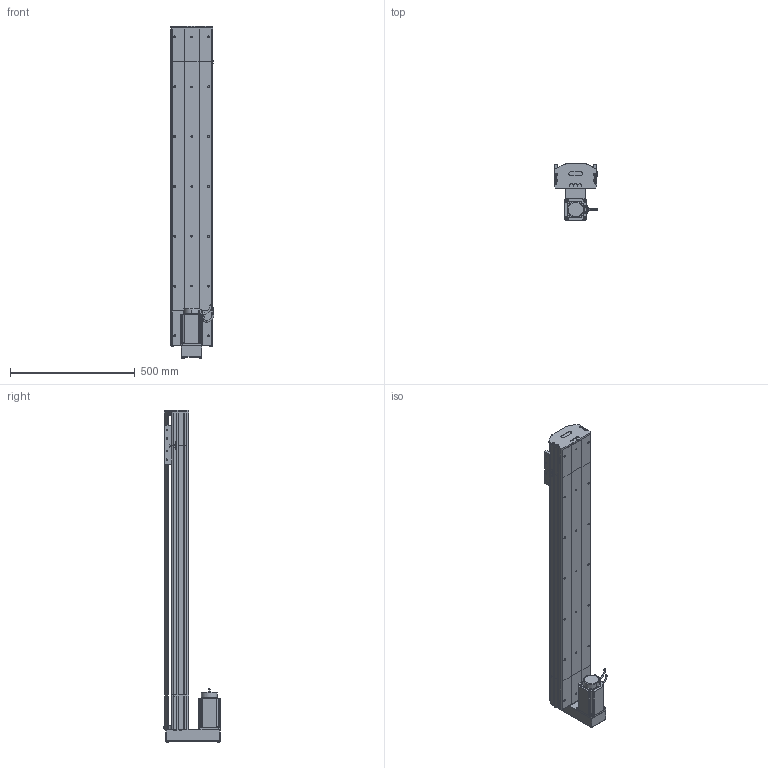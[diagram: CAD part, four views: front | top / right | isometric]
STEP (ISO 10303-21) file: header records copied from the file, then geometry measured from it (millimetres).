
FILE_DESCRIPTION (( 'STEP AP214' ), '1' );
FILE_NAME ('D17 TSH BM S1000.STEP', '2010-06-30T06:52:21', ( 'Christophe Gaillard' ), ( 'SGA' ), 'SwSTEP 2.0', 'SolidWorks 2010', '' );
FILE_SCHEMA (( 'AUTOMOTIVE_DESIGN' ));
Length unit declared in the file: millimetre
Products named in the file (33): couvercle D17 head_Default; corpl head D17 BM_Default; head BM_Default; vis M5 L25_Default; vis M5 L8 90°_Default; couvercle D17_Default; Arbre+rail tail D17; tete d''axe haut D17; tete d''axe bas D17; plaque de  bout tail D17_Default; chariot D17S_Default; Cvis M5 L70_Default; renvoi Bm_Default; Chariot D17; vis M5 L12_Default; guide D17; Vis M5 L16-2_Default; Conecteur_Default; Conecteur2_Default; codeur 90BLDC125-640; corps 90BLDC125A-640; avant 90BLDC125A-640; Moteur motionking 90BLDC125A-640; Arbre+rail head D17; plaque de  bout BM head D17_Default; vis M5 L5_Default; D17 TSH BM S1000; corp D17 1000_Default; arbre + rail D17 Course 1000 ; course 1000 D17_Default; corpl tail D17_Default; Tail D17_Default; couvercle D17 course L1000_Default
Assembly tree (55 placements, depth 4):
  D17 TSH BM S1000
    course 1000 D17_Default
      couvercle D17 course L1000_Default
      corp D17 1000_Default
      arbre + rail D17 Course 1000 
    head BM_Default
      Moteur motionking 90BLDC125A-640
        Conecteur2_Default
        corps 90BLDC125A-640
        Conecteur_Default
        codeur 90BLDC125-640
        avant 90BLDC125A-640
      vis M5 L12_Default  x8
      Arbre+rail head D17
      vis M5 L5_Default  x2
      Vis M5 L16-2_Default  x4
      plaque de  bout BM head D17_Default
      renvoi Bm_Default
      couvercle D17 head_Default
      corpl head D17 BM_Default
      Cvis M5 L70_Default  x2
    Tail D17_Default
      vis M5 L12_Default  x4
      tete d''axe haut D17
      vis M5 L25_Default  x2
      vis M5 L8 90°_Default  x2
      corpl tail D17_Default
      couvercle D17_Default
      tete d''axe bas D17
      plaque de  bout tail D17_Default
      Arbre+rail tail D17
    chariot D17S_Default
      vis M5 L12_Default  x4
      guide D17  x2
      Chariot D17
Bounding box: 174.95 x 225.7 x 1332.7 mm (x, y, z)
Volume: 8752562.9 mm3; surface area: 2229517.3 mm2
Topology: 80 solids, 80 shells, 2263 faces, 5699 edges, 3676 vertices
Faces by surface type: plane 1396, cylinder 590, bspline 136, torus 73, cone 64, sphere 4
Entity records: 73213 total; most frequent: CARTESIAN_POINT 22810, ORIENTED_EDGE 8906, DIRECTION 8346, EDGE_CURVE 4453, VECTOR 3070, LINE 3070, VERTEX_POINT 2922, AXIS2_PLACEMENT_3D 2638
